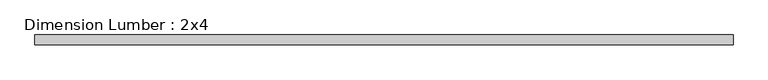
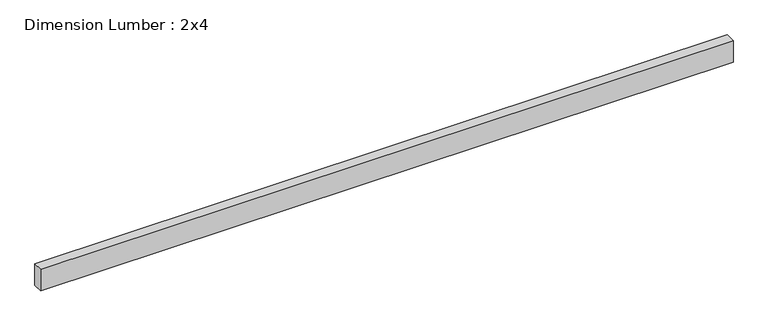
"""IFC4 building model written with IfcOpenShell, lengths in millimetres: beam geometry, Dimension Lumber : 2x4."""

from ifc_helpers import new_model, si_unit, frame, origin, place, context, project, spatial, polyline, outline, extrude, source, transform, mapped, element, save


def dimension_lumber_2x4_9c6b7c22(model_context):
    return source(origin(), model_context, "Body", "SweptSolid", [
        extrude(outline(polyline([(1343.025, 19.05), (1343.025, -19.05), (-1362.075, -19.05), (-1362.075, 19.05), (1343.025, 19.05)])), frame((0.0, 0.0, -44.45), z_axis=(0.0, 0.0, 1.0), x_axis=(1.0, 0.0, 0.0)), (0.0, 0.0, 1.0), 88.9),
    ])


if __name__ == "__main__":
    model = new_model("IFC4")
    model_context = context("Model", 3, world=origin())
    ifc_project = project(units=[si_unit("LENGTHUNIT", "METRE", prefix="MILLI")], contexts=[model_context])
    site = spatial("IfcSite", under=ifc_project)
    building = spatial("IfcBuilding", under=site)
    placement = place(None, origin())
    dimension_lumber_2x4_shape = dimension_lumber_2x4_9c6b7c22(model_context)
    element("IfcBeam", 1, ObjectType="Dimension Lumber : 2x4", at=placement, inside=building, context=model_context, shape_type="MappedRepresentation", body=[
        mapped(dimension_lumber_2x4_shape, transform((0.0, 0.0, 0.0), x_axis=(1.0, 0.0, 0.0), y_axis=(0.0, 1.0, 0.0), z_axis=(0.0, 0.0, 1.0))),
    ])
    save(model, "model.ifc")
